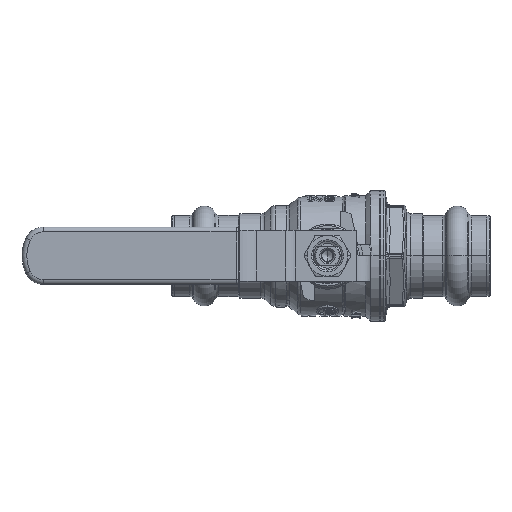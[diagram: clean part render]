
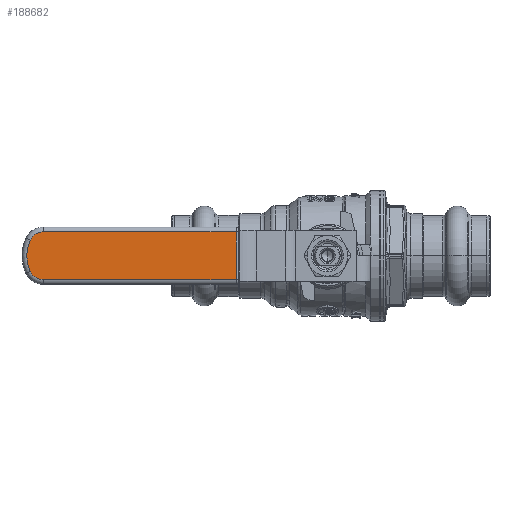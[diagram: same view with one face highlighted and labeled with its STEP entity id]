
A CAD part, top view. The second image highlights one B-rep face of the part: STEP entity #188682.
In plain terms, the highlighted planar face has unit normal (0, 0, 1).
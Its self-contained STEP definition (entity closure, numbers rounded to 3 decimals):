
#187703 = CYLINDRICAL_SURFACE('',#187704,0.7);
#187704 = AXIS2_PLACEMENT_3D('',#187705,#187706,#187707);
#187705 = CARTESIAN_POINT('',(-28.7,-8.992,50.952));
#187706 = DIRECTION('',(0.,-1.,0.));
#187707 = DIRECTION('',(0.,0.,1.));
#188203 = VERTEX_POINT('',#188204);
#188204 = CARTESIAN_POINT('',(-28.7,-9.1,51.652));
#188226 = EDGE_CURVE('',#188203,#188227,#188229,.T.);
#188227 = VERTEX_POINT('',#188228);
#188228 = CARTESIAN_POINT('',(-28.7,-24.1,51.652));
#188229 = SURFACE_CURVE('',#188230,(#188234,#188241),.PCURVE_S1.);
#188230 = LINE('',#188231,#188232);
#188231 = CARTESIAN_POINT('',(-28.7,-9.1,51.652));
#188232 = VECTOR('',#188233,1.);
#188233 = DIRECTION('',(0.,-1.,0.));
#188234 = PCURVE('',#187703,#188235);
#188235 = DEFINITIONAL_REPRESENTATION('',(#188236),#188240);
#188236 = LINE('',#188237,#188238);
#188237 = CARTESIAN_POINT('',(6.283,0.108));
#188238 = VECTOR('',#188239,1.);
#188239 = DIRECTION('',(0.,1.));
#188240 = ( GEOMETRIC_REPRESENTATION_CONTEXT(2) 
PARAMETRIC_REPRESENTATION_CONTEXT() REPRESENTATION_CONTEXT('2D SPACE',''
  ) );
#188241 = PCURVE('',#188242,#188247);
#188242 = PLANE('',#188243);
#188243 = AXIS2_PLACEMENT_3D('',#188244,#188245,#188246);
#188244 = CARTESIAN_POINT('',(-96.,-7.6,51.652));
#188245 = DIRECTION('',(0.,0.,1.));
#188246 = DIRECTION('',(0.,-1.,0.));
#188247 = DEFINITIONAL_REPRESENTATION('',(#188248),#188252);
#188248 = LINE('',#188249,#188250);
#188249 = CARTESIAN_POINT('',(1.5,67.3));
#188250 = VECTOR('',#188251,1.);
#188251 = DIRECTION('',(1.,0.));
#188252 = ( GEOMETRIC_REPRESENTATION_CONTEXT(2) 
PARAMETRIC_REPRESENTATION_CONTEXT() REPRESENTATION_CONTEXT('2D SPACE',''
  ) );
#188298 = CYLINDRICAL_SURFACE('',#188299,1.5);
#188299 = AXIS2_PLACEMENT_3D('',#188300,#188301,#188302);
#188300 = CARTESIAN_POINT('',(-89.419,-24.1,
    50.152));
#188301 = DIRECTION('',(1.,0.,0.));
#188302 = DIRECTION('',(0.,-1.,0.));
#188592 = TOROIDAL_SURFACE('',#188593,4.5,1.5);
#188593 = AXIS2_PLACEMENT_3D('',#188594,#188595,#188596);
#188594 = CARTESIAN_POINT('',(-89.325,-19.6,
    50.152));
#188595 = DIRECTION('',(0.,0.,-1.));
#188596 = DIRECTION('',(-0.914,-0.405,
    0.));
#188608 = VERTEX_POINT('',#188609);
#188609 = CARTESIAN_POINT('',(-93.39,-21.529,
    51.652));
#188624 = TOROIDAL_SURFACE('',#188625,11.5,1.5);
#188625 = AXIS2_PLACEMENT_3D('',#188626,#188627,#188628);
#188626 = CARTESIAN_POINT('',(-83.,-16.6,50.152));
#188627 = DIRECTION('',(0.,0.,1.));
#188628 = DIRECTION('',(-0.9,0.436,
    0.));
#188638 = VERTEX_POINT('',#188639);
#188639 = CARTESIAN_POINT('',(-89.325,-24.1,
    51.652));
#188661 = EDGE_CURVE('',#188608,#188638,#188662,.T.);
#188662 = SURFACE_CURVE('',#188663,(#188668,#188675),.PCURVE_S1.);
#188663 = CIRCLE('',#188664,4.5);
#188664 = AXIS2_PLACEMENT_3D('',#188665,#188666,#188667);
#188665 = CARTESIAN_POINT('',(-89.325,-19.6,
    51.652));
#188666 = DIRECTION('',(0.,0.,1.));
#188667 = DIRECTION('',(-0.904,-0.429,
    0.));
#188668 = PCURVE('',#188592,#188669);
#188669 = DEFINITIONAL_REPRESENTATION('',(#188670),#188674);
#188670 = LINE('',#188671,#188672);
#188671 = CARTESIAN_POINT('',(6.258,4.712));
#188672 = VECTOR('',#188673,1.);
#188673 = DIRECTION('',(-1.,0.));
#188674 = ( GEOMETRIC_REPRESENTATION_CONTEXT(2) 
PARAMETRIC_REPRESENTATION_CONTEXT() REPRESENTATION_CONTEXT('2D SPACE',''
  ) );
#188675 = PCURVE('',#188242,#188676);
#188676 = DEFINITIONAL_REPRESENTATION('',(#188677),#188681);
#188677 = CIRCLE('',#188678,4.5);
#188678 = AXIS2_PLACEMENT_2D('',#188679,#188680);
#188679 = CARTESIAN_POINT('',(12.,6.675));
#188680 = DIRECTION('',(0.429,-0.904));
#188681 = ( GEOMETRIC_REPRESENTATION_CONTEXT(2) 
PARAMETRIC_REPRESENTATION_CONTEXT() REPRESENTATION_CONTEXT('2D SPACE',''
  ) );
#188682 = ADVANCED_FACE('',(#188683),#188242,.T.);
#188683 = FACE_BOUND('',#188684,.T.);
#188684 = EDGE_LOOP('',(#188685,#188713,#188742,#188764,#188765,#188786)
  );
#188685 = ORIENTED_EDGE('',*,*,#188686,.T.);
#188686 = EDGE_CURVE('',#188203,#188687,#188689,.T.);
#188687 = VERTEX_POINT('',#188688);
#188688 = CARTESIAN_POINT('',(-89.325,-9.1,
    51.652));
#188689 = SURFACE_CURVE('',#188690,(#188694,#188701),.PCURVE_S1.);
#188690 = LINE('',#188691,#188692);
#188691 = CARTESIAN_POINT('',(-28.7,-9.1,51.652));
#188692 = VECTOR('',#188693,1.);
#188693 = DIRECTION('',(-1.,0.,0.));
#188694 = PCURVE('',#188242,#188695);
#188695 = DEFINITIONAL_REPRESENTATION('',(#188696),#188700);
#188696 = LINE('',#188697,#188698);
#188697 = CARTESIAN_POINT('',(1.5,67.3));
#188698 = VECTOR('',#188699,1.);
#188699 = DIRECTION('',(0.,-1.));
#188700 = ( GEOMETRIC_REPRESENTATION_CONTEXT(2) 
PARAMETRIC_REPRESENTATION_CONTEXT() REPRESENTATION_CONTEXT('2D SPACE',''
  ) );
#188701 = PCURVE('',#188702,#188707);
#188702 = CYLINDRICAL_SURFACE('',#188703,1.5);
#188703 = AXIS2_PLACEMENT_3D('',#188704,#188705,#188706);
#188704 = CARTESIAN_POINT('',(-27.89,-9.1,
    50.152));
#188705 = DIRECTION('',(-1.,0.,0.));
#188706 = DIRECTION('',(0.,1.,0.));
#188707 = DEFINITIONAL_REPRESENTATION('',(#188708),#188712);
#188708 = LINE('',#188709,#188710);
#188709 = CARTESIAN_POINT('',(4.712,0.81));
#188710 = VECTOR('',#188711,1.);
#188711 = DIRECTION('',(0.,1.));
#188712 = ( GEOMETRIC_REPRESENTATION_CONTEXT(2) 
PARAMETRIC_REPRESENTATION_CONTEXT() REPRESENTATION_CONTEXT('2D SPACE',''
  ) );
#188713 = ORIENTED_EDGE('',*,*,#188714,.T.);
#188714 = EDGE_CURVE('',#188687,#188715,#188717,.T.);
#188715 = VERTEX_POINT('',#188716);
#188716 = CARTESIAN_POINT('',(-93.39,-11.672,
    51.652));
#188717 = SURFACE_CURVE('',#188718,(#188723,#188730),.PCURVE_S1.);
#188718 = CIRCLE('',#188719,4.5);
#188719 = AXIS2_PLACEMENT_3D('',#188720,#188721,#188722);
#188720 = CARTESIAN_POINT('',(-89.325,-13.6,
    51.652));
#188721 = DIRECTION('',(0.,0.,1.));
#188722 = DIRECTION('',(0.,1.,0.));
#188723 = PCURVE('',#188242,#188724);
#188724 = DEFINITIONAL_REPRESENTATION('',(#188725),#188729);
#188725 = CIRCLE('',#188726,4.5);
#188726 = AXIS2_PLACEMENT_2D('',#188727,#188728);
#188727 = CARTESIAN_POINT('',(6.,6.675));
#188728 = DIRECTION('',(-1.,0.));
#188729 = ( GEOMETRIC_REPRESENTATION_CONTEXT(2) 
PARAMETRIC_REPRESENTATION_CONTEXT() REPRESENTATION_CONTEXT('2D SPACE',''
  ) );
#188730 = PCURVE('',#188731,#188736);
#188731 = TOROIDAL_SURFACE('',#188732,4.5,1.5);
#188732 = AXIS2_PLACEMENT_3D('',#188733,#188734,#188735);
#188733 = CARTESIAN_POINT('',(-89.325,-13.6,
    50.152));
#188734 = DIRECTION('',(0.,0.,1.));
#188735 = DIRECTION('',(0.018,1.,
    0.));
#188736 = DEFINITIONAL_REPRESENTATION('',(#188737),#188741);
#188737 = LINE('',#188738,#188739);
#188738 = CARTESIAN_POINT('',(0.018,1.571));
#188739 = VECTOR('',#188740,1.);
#188740 = DIRECTION('',(1.,0.));
#188741 = ( GEOMETRIC_REPRESENTATION_CONTEXT(2) 
PARAMETRIC_REPRESENTATION_CONTEXT() REPRESENTATION_CONTEXT('2D SPACE',''
  ) );
#188742 = ORIENTED_EDGE('',*,*,#188743,.T.);
#188743 = EDGE_CURVE('',#188715,#188608,#188744,.T.);
#188744 = SURFACE_CURVE('',#188745,(#188750,#188757),.PCURVE_S1.);
#188745 = CIRCLE('',#188746,11.5);
#188746 = AXIS2_PLACEMENT_3D('',#188747,#188748,#188749);
#188747 = CARTESIAN_POINT('',(-83.,-16.6,51.652));
#188748 = DIRECTION('',(0.,0.,1.));
#188749 = DIRECTION('',(-0.904,0.429,
    0.));
#188750 = PCURVE('',#188242,#188751);
#188751 = DEFINITIONAL_REPRESENTATION('',(#188752),#188756);
#188752 = CIRCLE('',#188753,11.5);
#188753 = AXIS2_PLACEMENT_2D('',#188754,#188755);
#188754 = CARTESIAN_POINT('',(9.,13.));
#188755 = DIRECTION('',(-0.429,-0.904));
#188756 = ( GEOMETRIC_REPRESENTATION_CONTEXT(2) 
PARAMETRIC_REPRESENTATION_CONTEXT() REPRESENTATION_CONTEXT('2D SPACE',''
  ) );
#188757 = PCURVE('',#188624,#188758);
#188758 = DEFINITIONAL_REPRESENTATION('',(#188759),#188763);
#188759 = LINE('',#188760,#188761);
#188760 = CARTESIAN_POINT('',(0.008,1.571));
#188761 = VECTOR('',#188762,1.);
#188762 = DIRECTION('',(1.,0.));
#188763 = ( GEOMETRIC_REPRESENTATION_CONTEXT(2) 
PARAMETRIC_REPRESENTATION_CONTEXT() REPRESENTATION_CONTEXT('2D SPACE',''
  ) );
#188764 = ORIENTED_EDGE('',*,*,#188661,.T.);
#188765 = ORIENTED_EDGE('',*,*,#188766,.T.);
#188766 = EDGE_CURVE('',#188638,#188227,#188767,.T.);
#188767 = SURFACE_CURVE('',#188768,(#188772,#188779),.PCURVE_S1.);
#188768 = LINE('',#188769,#188770);
#188769 = CARTESIAN_POINT('',(-89.325,-24.1,
    51.652));
#188770 = VECTOR('',#188771,1.);
#188771 = DIRECTION('',(1.,0.,0.));
#188772 = PCURVE('',#188242,#188773);
#188773 = DEFINITIONAL_REPRESENTATION('',(#188774),#188778);
#188774 = LINE('',#188775,#188776);
#188775 = CARTESIAN_POINT('',(16.5,6.675));
#188776 = VECTOR('',#188777,1.);
#188777 = DIRECTION('',(0.,1.));
#188778 = ( GEOMETRIC_REPRESENTATION_CONTEXT(2) 
PARAMETRIC_REPRESENTATION_CONTEXT() REPRESENTATION_CONTEXT('2D SPACE',''
  ) );
#188779 = PCURVE('',#188298,#188780);
#188780 = DEFINITIONAL_REPRESENTATION('',(#188781),#188785);
#188781 = LINE('',#188782,#188783);
#188782 = CARTESIAN_POINT('',(4.712,0.094));
#188783 = VECTOR('',#188784,1.);
#188784 = DIRECTION('',(0.,1.));
#188785 = ( GEOMETRIC_REPRESENTATION_CONTEXT(2) 
PARAMETRIC_REPRESENTATION_CONTEXT() REPRESENTATION_CONTEXT('2D SPACE',''
  ) );
#188786 = ORIENTED_EDGE('',*,*,#188226,.F.);
